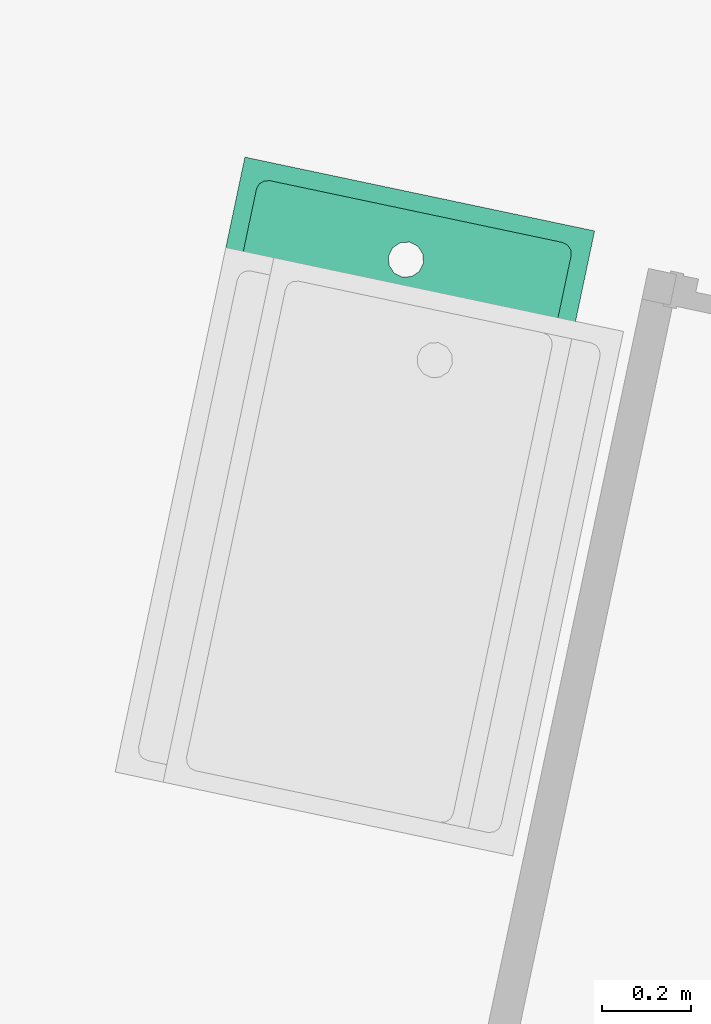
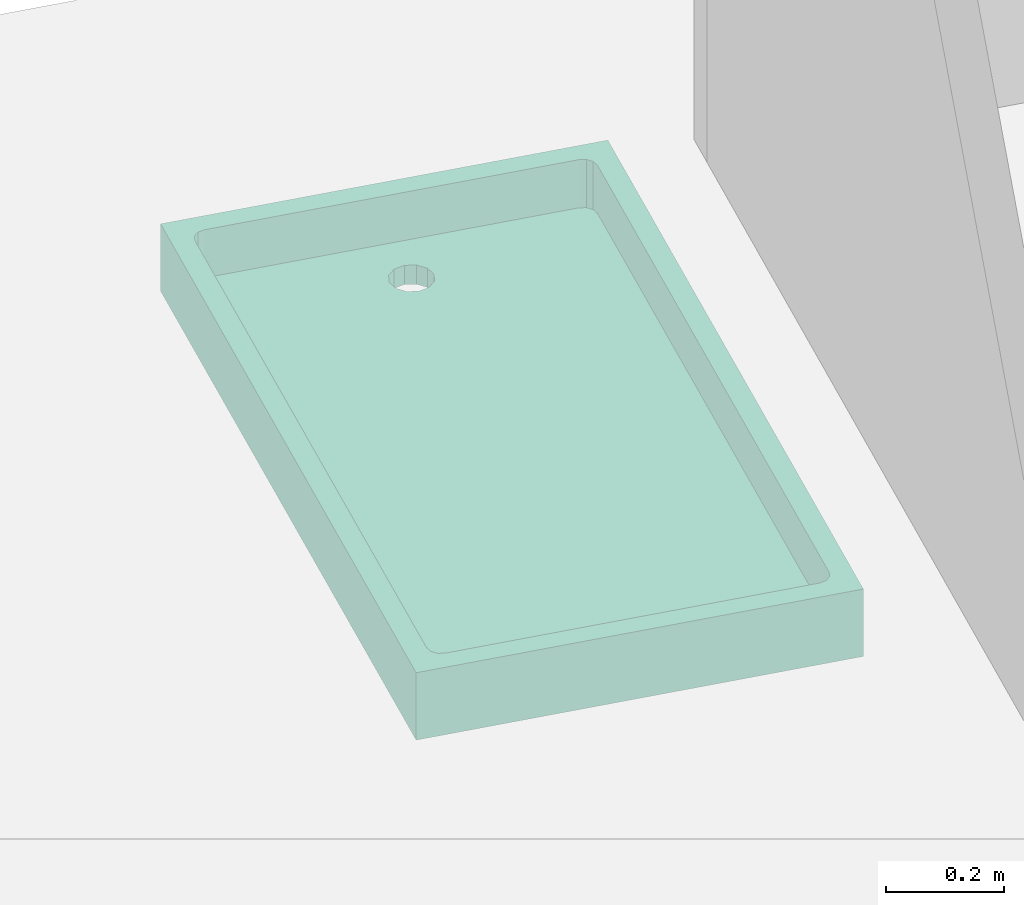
# One storey, part 16 of 18: 1 flow terminal.
"""IFC2X3 building model written with IfcOpenShell, lengths in metres."""

from ifc_helpers import new_model, entity, si_unit, converted_unit, derived_unit, direction, frame, origin, place, context, subcontext, project, spatial, faceted_brep, source, transform, mapped, material, element, save


model = new_model("IFC2X3")

# Units and contexts
model_context = context("Model", 3, precision=1e-05, world=origin(), true_north=direction((6.12303176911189e-17, 1.0)))
body_context = subcontext(model_context, "Body", "Model", "MODEL_VIEW")
ifc_project = project(units=[si_unit("LENGTHUNIT", "METRE"), si_unit("AREAUNIT", "SQUARE_METRE"), si_unit("VOLUMEUNIT", "CUBIC_METRE"), converted_unit("PLANEANGLEUNIT", "DEGREE", entity("IfcRatioMeasure", 0.0174532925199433), si_unit("PLANEANGLEUNIT", "RADIAN"), dimensions=[0, 0, 0, 0, 0, 0, 0]), si_unit("MASSUNIT", "GRAM", prefix="KILO"), derived_unit("MASSDENSITYUNIT", [(si_unit("MASSUNIT", "GRAM", prefix="KILO"), 1), (si_unit("LENGTHUNIT", "METRE"), -3)]), si_unit("TIMEUNIT", "SECOND"), si_unit("FREQUENCYUNIT", "HERTZ"), si_unit("THERMODYNAMICTEMPERATUREUNIT", "DEGREE_CELSIUS"), derived_unit("THERMALTRANSMITTANCEUNIT", [(si_unit("MASSUNIT", "GRAM", prefix="KILO"), 1), (si_unit("THERMODYNAMICTEMPERATUREUNIT", "KELVIN"), -1), (si_unit("TIMEUNIT", "SECOND"), -3)]), derived_unit("VOLUMETRICFLOWRATEUNIT", [(si_unit("LENGTHUNIT", "METRE"), 3), (si_unit("TIMEUNIT", "SECOND"), -1)]), si_unit("ELECTRICCURRENTUNIT", "AMPERE"), si_unit("ELECTRICVOLTAGEUNIT", "VOLT"), si_unit("POWERUNIT", "WATT"), si_unit("FORCEUNIT", "NEWTON", prefix="KILO"), si_unit("ILLUMINANCEUNIT", "LUX"), si_unit("LUMINOUSFLUXUNIT", "LUMEN"), si_unit("LUMINOUSINTENSITYUNIT", "CANDELA"), derived_unit("USERDEFINED", [(si_unit("MASSUNIT", "GRAM", prefix="KILO"), -1), (si_unit("LENGTHUNIT", "METRE"), -2), (si_unit("TIMEUNIT", "SECOND"), 3), (si_unit("LUMINOUSFLUXUNIT", "LUMEN"), 1)]), derived_unit("LINEARVELOCITYUNIT", [(si_unit("LENGTHUNIT", "METRE"), 1), (si_unit("TIMEUNIT", "SECOND"), -1)]), si_unit("PRESSUREUNIT", "PASCAL"), derived_unit("USERDEFINED", [(si_unit("LENGTHUNIT", "METRE"), -2), (si_unit("MASSUNIT", "GRAM", prefix="KILO"), 1), (si_unit("TIMEUNIT", "SECOND"), -2)])], contexts=[model_context])

# Site, building, storey, space
site_placement = place(None, origin())
site = spatial("IfcSite", under=ifc_project, at=site_placement, Name="Default", CompositionType="ELEMENT")
building_placement = place(site_placement, origin())
building = spatial("IfcBuilding", under=site, at=building_placement, CompositionType="ELEMENT")
storey_placement = place(building_placement, frame((0.0, 0.0, 2.8)))
storey = spatial("IfcBuildingStorey", under=building, at=storey_placement, Name="ETAGE", CompositionType="ELEMENT", Elevation=2.8)
space_placement = place(storey_placement, origin())
space = spatial("IfcSpace", under=storey, at=space_placement, Name="645", CompositionType="ELEMENT", InteriorOrExteriorSpace="INTERNAL")

# Flow terminal
ifc_material = material(Name="Blanc - Element de salle de bains")
shared_shape = source(origin(), body_context, "Body", "Brep", [
    faceted_brep([(0.4, 0.700000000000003, 0.139999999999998), (0.360000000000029, 0.63460000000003, 0.139999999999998), (0.360000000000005, -0.634599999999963, 0.139999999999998), (0.4, -0.699999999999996, 0.139999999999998), (0.358298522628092, 0.64095000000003, 0.139999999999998), (0.356597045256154, 0.64730000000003, 0.139999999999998), (0.351948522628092, 0.651948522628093, 0.139999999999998), (0.347300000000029, 0.656597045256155, 0.139999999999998), (0.342049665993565, 0.658003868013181, 0.139999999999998), (0.334600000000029, 0.66000000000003, 0.139999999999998), (-0.334600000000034, 0.66000000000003, 0.139999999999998), (-0.4, 0.700000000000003, 0.139999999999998), (-0.340950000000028, 0.658298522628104, 0.139999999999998), (-0.347300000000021, 0.656597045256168, 0.139999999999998), (-0.351948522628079, 0.65194852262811, 0.139999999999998), (-0.356597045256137, 0.647300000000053, 0.139999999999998), (-0.358003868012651, 0.642049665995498, 0.139999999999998), (-0.360000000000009, 0.634600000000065, 0.139999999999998), (-0.359999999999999, -0.634599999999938, 0.139999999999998), (-0.4, -0.699999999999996, 0.139999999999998), (-0.334599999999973, -0.659999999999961, 0.139999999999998), (-0.342049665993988, -0.658003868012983, 0.139999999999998), (-0.347299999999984, -0.656597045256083, 0.139999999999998), (-0.351948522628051, -0.651948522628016, 0.139999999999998), (-0.358298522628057, -0.640949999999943, 0.139999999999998), (-0.356597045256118, -0.647299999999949, 0.139999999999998), (0.358003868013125, -0.642049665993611, 0.139999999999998), (0.356597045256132, -0.647299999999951, 0.139999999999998), (0.351948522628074, -0.65194852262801, 0.139999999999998), (0.347300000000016, -0.656597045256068, 0.139999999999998), (0.340950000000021, -0.658298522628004, 0.139999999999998), (0.334600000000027, -0.659999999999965, 0.139999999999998), (-0.4, -0.699999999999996, 0.0), (-0.0200000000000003, -0.515358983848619, 0.0), (-0.0273205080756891, -0.522679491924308, 0.0), (-0.4, 0.700000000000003, 0.0), (-0.0346410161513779, -0.529999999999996, 0.0), (-0.0373205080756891, -0.539999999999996, 0.0), (-0.0400000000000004, -0.549999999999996, 0.0), (-0.0373205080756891, -0.559999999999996, 0.0), (-0.0346410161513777, -0.569999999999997, 0.0), (-0.0273205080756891, -0.577320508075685, 0.0), (-0.0200000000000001, -0.584641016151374, 0.0), (-0.0100000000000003, -0.587320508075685, 0.0), (0.0, -0.589999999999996, 0.0), (0.4, -0.699999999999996, 0.0), (-0.0100000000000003, -0.512679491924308, 0.0), (0.0, -0.509999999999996, 0.0), (0.4, 0.700000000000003, 0.0), (0.0199999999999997, -0.515358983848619, 0.0), (0.00999999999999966, -0.512679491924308, 0.0), (0.00999999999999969, -0.587320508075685, 0.0), (0.0199999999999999, -0.584641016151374, 0.0), (0.0273205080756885, -0.577320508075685, 0.0), (0.0346410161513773, -0.569999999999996, 0.0), (0.0373205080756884, -0.559999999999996, 0.0), (0.0399999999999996, -0.549999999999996, 0.0), (0.0373205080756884, -0.539999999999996, 0.0), (0.0346410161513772, -0.529999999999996, 0.0), (0.0273205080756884, -0.522679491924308, 0.0), (0.34095000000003, 0.658298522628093, 0.0399999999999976), (0.356597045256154, 0.64730000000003, 0.0399999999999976), (0.351948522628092, 0.651948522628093, 0.0399999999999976), (0.33460000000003, 0.66000000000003, 0.0399999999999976), (0.34730000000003, 0.656597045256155, 0.0399999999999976), (0.358003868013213, 0.642049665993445, 0.0399999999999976), (0.36000000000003, 0.63460000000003, 0.0399999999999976), (-0.360000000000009, 0.634600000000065, 0.0399999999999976), (-0.334600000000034, 0.66000000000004, 0.0399999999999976), (-0.358298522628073, 0.640950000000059, 0.0399999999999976), (-0.356597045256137, 0.647300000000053, 0.0399999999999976), (-0.342049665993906, 0.6580038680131, 0.0399999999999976), (-0.351948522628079, 0.65194852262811, 0.0399999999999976), (-0.347300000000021, 0.656597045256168, 0.0399999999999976), (0.0, -0.509999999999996, 0.0399999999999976), (-0.0100000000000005, -0.512679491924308, 0.0399999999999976), (-0.0200000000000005, -0.515358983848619, 0.0399999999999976), (-0.359999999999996, -0.634599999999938, 0.0399999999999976), (-0.0273205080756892, -0.522679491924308, 0.0399999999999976), (-0.034641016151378, -0.529999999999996, 0.0399999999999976), (-0.0375344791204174, -0.540798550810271, 0.0399999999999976), (-0.0400000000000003, -0.549999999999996, 0.0399999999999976), (-0.334599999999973, -0.659999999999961, 0.0399999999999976), (-0.358003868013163, -0.642049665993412, 0.0399999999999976), (-0.356597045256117, -0.647299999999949, 0.0399999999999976), (-0.340949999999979, -0.658298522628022, 0.0399999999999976), (-0.351948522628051, -0.651948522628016, 0.0399999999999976), (-0.347299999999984, -0.656597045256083, 0.0399999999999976), (-0.0375344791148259, -0.55920144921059, 0.0399999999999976), (-0.034641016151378, -0.569999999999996, 0.0399999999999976), (-0.0273205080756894, -0.577320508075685, 0.0399999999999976), (-0.0200000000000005, -0.584641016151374, 0.0399999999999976), (-0.0100000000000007, -0.587320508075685, 0.0399999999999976), (0.0, -0.589999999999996, 0.0399999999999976), (0.334600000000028, -0.65999999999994, 0.0399999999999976), (0.00999999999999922, -0.587320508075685, 0.0399999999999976), (0.0199999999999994, -0.584641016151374, 0.0399999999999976), (0.0273205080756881, -0.577320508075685, 0.0399999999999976), (0.0346410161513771, -0.569999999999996, 0.0399999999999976), (0.0375344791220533, -0.559201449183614, 0.0399999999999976), (0.0399999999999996, -0.549999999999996, 0.0399999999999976), (0.360000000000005, -0.634599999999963, 0.0399999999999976), (0.358298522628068, -0.640949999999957, 0.0399999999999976), (0.356597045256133, -0.647299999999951, 0.0399999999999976), (0.351948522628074, -0.65194852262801, 0.0399999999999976), (0.342049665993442, -0.658003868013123, 0.0399999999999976), (0.347300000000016, -0.656597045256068, 0.0399999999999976), (0.0199999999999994, -0.515358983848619, 0.0399999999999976), (0.0273205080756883, -0.522679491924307, 0.0399999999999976), (0.0375344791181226, -0.540798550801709, 0.0399999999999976), (0.0346410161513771, -0.529999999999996, 0.0399999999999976), (0.00999999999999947, -0.512679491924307, 0.0399999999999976)], [[[0, 1, 2]], [[2, 3, 0]], [[0, 4, 1]], [[0, 5, 4]], [[0, 6, 5]], [[0, 7, 6]], [[0, 8, 7]], [[0, 9, 8]], [[0, 10, 9]], [[10, 0, 11]], [[11, 12, 10]], [[11, 13, 12]], [[11, 14, 13]], [[11, 15, 14]], [[11, 16, 15]], [[11, 17, 16]], [[17, 11, 18]], [[19, 18, 11]], [[20, 19, 3]], [[19, 20, 21]], [[19, 21, 22]], [[19, 22, 23]], [[19, 24, 18]], [[19, 25, 24]], [[19, 23, 25]], [[3, 2, 26]], [[3, 26, 27]], [[3, 27, 28]], [[3, 28, 29]], [[3, 29, 30]], [[3, 30, 31]], [[3, 31, 20]], [[32, 33, 34]], [[33, 32, 35]], [[32, 34, 36]], [[32, 36, 37]], [[32, 37, 38]], [[32, 38, 39]], [[32, 39, 40]], [[32, 40, 41]], [[32, 41, 42]], [[32, 42, 43]], [[32, 43, 44]], [[44, 45, 32]], [[35, 46, 33]], [[35, 47, 46]], [[35, 48, 47]], [[48, 45, 49]], [[48, 49, 50]], [[48, 50, 47]], [[45, 44, 51]], [[45, 51, 52]], [[45, 52, 53]], [[45, 53, 54]], [[45, 54, 55]], [[45, 55, 56]], [[45, 56, 57]], [[45, 57, 58]], [[45, 58, 59]], [[45, 59, 49]], [[11, 0, 48, 35]], [[19, 11, 35, 32]], [[3, 19, 32, 45]], [[0, 3, 45, 48]], [[60, 61, 62]], [[61, 60, 63]], [[60, 62, 64]], [[63, 65, 61]], [[63, 66, 65]], [[67, 66, 63]], [[63, 68, 67]], [[68, 69, 67]], [[68, 70, 69]], [[70, 68, 71]], [[71, 72, 70]], [[71, 73, 72]], [[67, 74, 66]], [[67, 75, 74]], [[67, 76, 75]], [[67, 77, 76]], [[77, 78, 76]], [[77, 79, 78]], [[77, 80, 79]], [[77, 81, 80]], [[81, 77, 82]], [[82, 77, 83]], [[82, 83, 84]], [[84, 85, 82]], [[85, 84, 86]], [[85, 86, 87]], [[82, 88, 81]], [[82, 89, 88]], [[82, 90, 89]], [[82, 91, 90]], [[82, 92, 91]], [[82, 93, 92]], [[82, 94, 93]], [[94, 95, 93]], [[94, 96, 95]], [[94, 97, 96]], [[94, 98, 97]], [[94, 99, 98]], [[94, 100, 99]], [[94, 101, 100]], [[94, 102, 101]], [[94, 103, 102]], [[94, 104, 103]], [[104, 94, 105]], [[104, 105, 106]], [[107, 101, 66]], [[101, 107, 108]], [[101, 109, 100]], [[101, 110, 109]], [[101, 108, 110]], [[66, 74, 111]], [[66, 111, 107]], [[106, 105, 94, 31, 30, 29]], [[103, 104, 106, 29, 28, 27]], [[2, 101, 102, 103, 27, 26]], [[101, 2, 1, 66]], [[61, 65, 66, 1, 4, 5]], [[64, 62, 61, 5, 6, 7]], [[9, 63, 60, 64, 7, 8]], [[63, 9, 10, 68]], [[73, 71, 68, 10, 12, 13]], [[70, 72, 73, 13, 14, 15]], [[17, 67, 69, 70, 15, 16]], [[77, 67, 17, 18]], [[84, 83, 77, 18, 24, 25]], [[87, 86, 84, 25, 23, 22]], [[20, 82, 85, 87, 22, 21]], [[82, 20, 31, 94]], [[40, 39, 38, 81, 88, 89]], [[97, 98, 54, 53, 52, 96]], [[91, 42, 41, 40, 89, 90]], [[92, 93, 44, 43, 42, 91]], [[99, 100, 56, 55, 54, 98]], [[51, 44, 93, 95, 96, 52]], [[58, 57, 56, 100, 109, 110]], [[78, 79, 36, 34, 33, 76]], [[107, 49, 59, 58, 110, 108]], [[50, 49, 107, 111, 74, 47]], [[80, 81, 38, 37, 36, 79]], [[46, 47, 74, 75, 76, 33]]]),
])
flow_terminal_placement = place(space_placement, frame((-13.5032848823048, 81.2587844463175, 0.0), z_axis=(0.0, 0.0, 1.0), x_axis=(-0.978437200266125, 0.206544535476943, 0.0)))
element("IfcFlowTerminal", 1, at=flow_terminal_placement, inside=space, material=ifc_material, Name="FR_Bac à douches - Vidange Axée:80 X 140", ObjectType="FR_Bac à douches - Vidange Axée:80 X 140", context=body_context, shape_type="MappedRepresentation", body=[
    mapped(shared_shape, transform((0.0, 0.0, 0.0), scale=1.0)),
])

save(model, "model.ifc")
